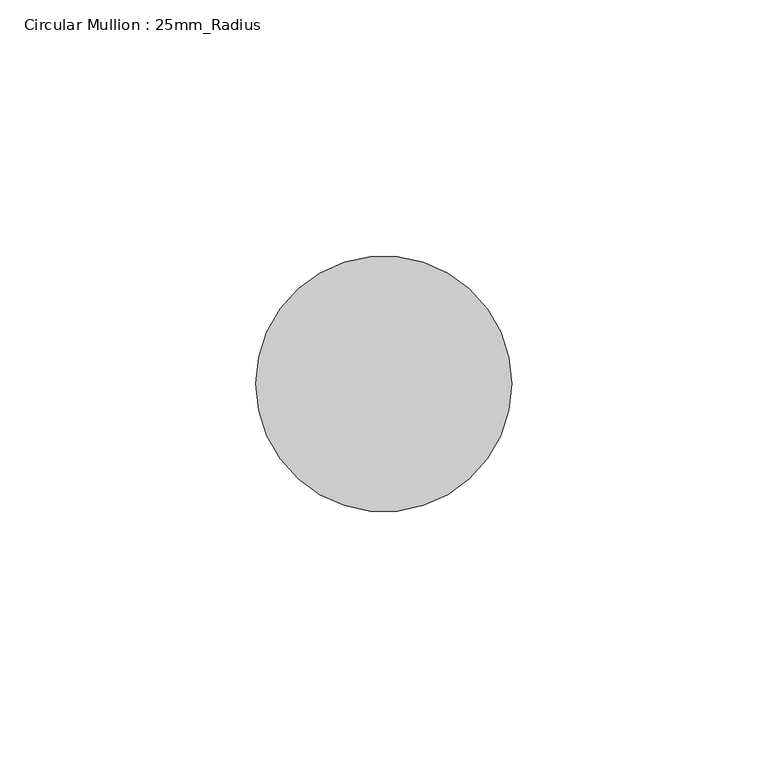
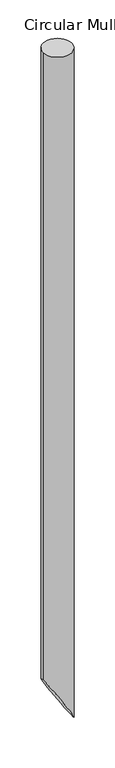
"""IFC4 building model written with IfcOpenShell, lengths in millimetres: member geometry, Circular Mullion : 25mm_Radius."""

from ifc_helpers import new_model, si_unit, frame, origin, place, context, project, spatial, circle_curve, ellipse_curve, source, transform, mapped, element, save
from ifc_brep_helpers import plane_surface, cylinder_surface, advanced_brep


def circular_mullion_25mm_radius_340d602c(model_context):
    return source(origin(), model_context, "Body", "AdvancedBrep", [
        advanced_brep(
        [(-50.0, 0.0, 0.0), (0.0, 0.0, 0.0), (0.0, 0.0, -1232.566936), (-50.0, 0.0, -1150.0115197)],
        [
            (0, 1, circle_curve(frame((-25.0, 0.0, 0.0), z_axis=(0.0, 0.0, -1.0), x_axis=(1.0, 0.0, 0.0)), 25.0)),
            (1, 2),
            (2, 3, ellipse_curve(frame((-25.0, 0.0, -1191.2892279), z_axis=(0.8553520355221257, 0.0, 0.5180471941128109), x_axis=(-0.5180471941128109, 0.0, 0.8553520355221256)), 48.2581515, 25.0)),
            (3, 0),
            (1, 0, circle_curve(frame((-25.0, 0.0, 0.0), z_axis=(0.0, 0.0, -1.0), x_axis=(1.0, 0.0, 0.0)), 25.0)),
            (3, 2, ellipse_curve(frame((-25.0, 0.0, -1191.2892279), z_axis=(0.8553520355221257, 0.0, 0.5180471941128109), x_axis=(-0.5180471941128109, 0.0, 0.8553520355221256)), 48.2581515, 25.0)),
        ],
        [
            cylinder_surface(frame((-25.0, 0.0, 0.0), z_axis=(0.0, 0.0, 1.0), x_axis=(1.0, 0.0, 0.0)), 25.0),
            plane_surface(frame((-304.8, 0.0, 0.0), z_axis=(0.0, 0.0, 1.0), x_axis=(0.0, 1.0, 0.0))),
            plane_surface(frame((0.0, -304.8, -1232.566936), z_axis=(-0.8553520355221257, 0.0, -0.5180471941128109), x_axis=(-0.5180471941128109, 0.0, 0.8553520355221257))),
        ],
        [
            (0, [[1, 2, 3, 4]]),
            (0, [[5, -4, 6, -2]]),
            (1, [[-1, -5]]),
            (2, [[-6, -3]]),
        ],
    ),
    ])


if __name__ == "__main__":
    model = new_model("IFC4")
    model_context = context("Model", 3, world=origin())
    ifc_project = project(units=[si_unit("LENGTHUNIT", "METRE", prefix="MILLI")], contexts=[model_context])
    site = spatial("IfcSite", under=ifc_project)
    building = spatial("IfcBuilding", under=site)
    placement = place(None, origin())
    circular_mullion_25mm_radius_shape = circular_mullion_25mm_radius_340d602c(model_context)
    element("IfcMember", 1, ObjectType="Circular Mullion : 25mm_Radius", at=placement, inside=building, context=model_context, shape_type="MappedRepresentation", body=[
        mapped(circular_mullion_25mm_radius_shape, transform((0.0, 0.0, 0.0), x_axis=(1.0, 0.0, 0.0), y_axis=(0.0, 1.0, 0.0), z_axis=(0.0, 0.0, 1.0))),
    ])
    save(model, "model.ifc")
